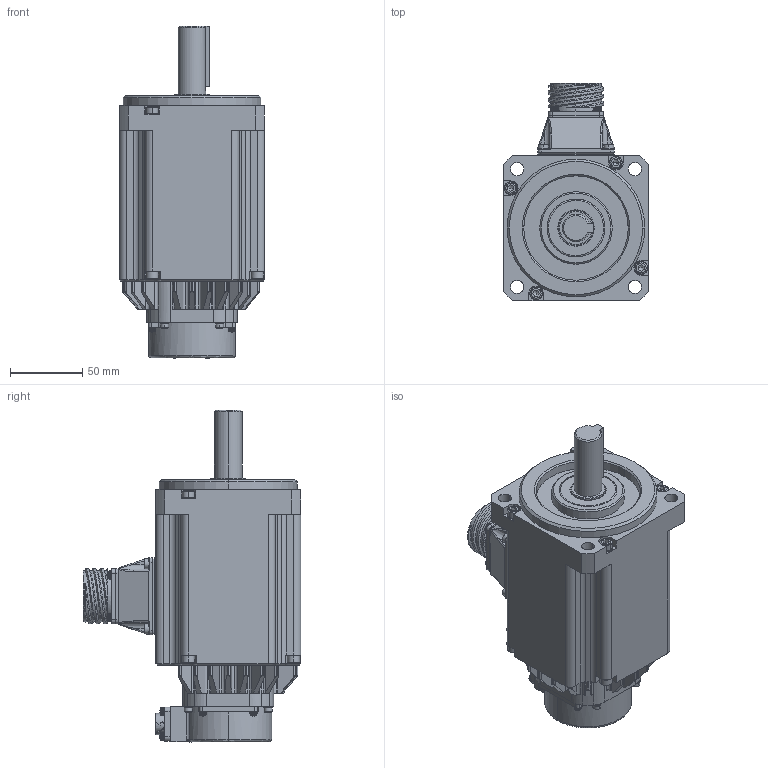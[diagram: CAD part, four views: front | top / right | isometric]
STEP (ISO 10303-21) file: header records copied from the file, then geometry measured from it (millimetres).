
FILE_DESCRIPTION (( 'STEP AP203' ), '1' );
FILE_NAME ('TSM3409N2371E731‘•”z.STEP', '2018-06-23T11:47:17', ( '' ), ( '' ), 'SwSTEP 2.0', 'SolidWorks 2017', '' );
FILE_SCHEMA (( 'CONFIG_CONTROL_DESIGN' ));
Length unit declared in the file: millimetre
Products named in the file (1): TSM3409N2371E731装配
Bounding box: 100 x 150 x 229 mm (x, y, z)
Volume: 1372348.6 mm3; surface area: 123406.8 mm2
Topology: 1 solids, 22 shells, 1804 faces, 4832 edges, 3136 vertices
Faces by surface type: plane 734, cylinder 563, bspline 348, cone 159
Entity records: 82177 total; most frequent: CARTESIAN_POINT 41570, ORIENTED_EDGE 9542, DIRECTION 6549, EDGE_CURVE 4771, VERTEX_POINT 3136, VECTOR 2355, LINE 2355, AXIS2_PLACEMENT_3D 2097
